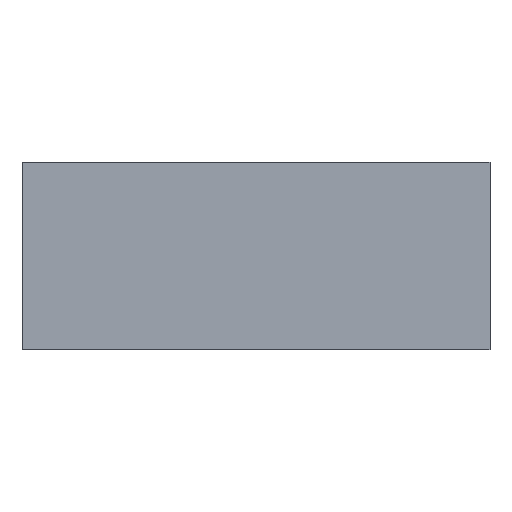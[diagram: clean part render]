
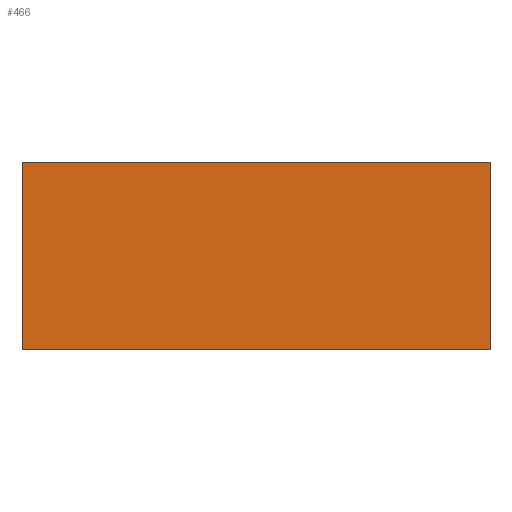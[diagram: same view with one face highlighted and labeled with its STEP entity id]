
A CAD part, left-side view. The second image highlights one B-rep face of the part: STEP entity #466.
In plain terms, the highlighted planar face has unit normal (-1, 0, 0).
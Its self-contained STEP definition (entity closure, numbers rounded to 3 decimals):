
#1 = EDGE_LOOP ( 'NONE', ( #212, #404, #587, #573 ) ) ;
#3 = VECTOR ( 'NONE', #91, 1000. ) ;
#19 = CARTESIAN_POINT ( 'NONE',  ( -90., 25., 20. ) ) ;
#26 = FACE_OUTER_BOUND ( 'NONE', #1, .T. ) ;
#33 = VECTOR ( 'NONE', #97, 1000. ) ;
#91 = DIRECTION ( 'NONE',  ( 0., -1., 0. ) ) ;
#97 = DIRECTION ( 'NONE',  ( 0., -1., 0. ) ) ;
#98 = PLANE ( 'NONE',  #535 ) ;
#134 = VERTEX_POINT ( 'NONE', #604 ) ;
#193 = EDGE_CURVE ( 'NONE', #489, #134, #260, .T. ) ;
#210 = CARTESIAN_POINT ( 'NONE',  ( -90., 25., 20. ) ) ;
#212 = ORIENTED_EDGE ( 'NONE', *, *, #398, .T. ) ;
#260 = LINE ( 'NONE', #210, #3 ) ;
#294 = CARTESIAN_POINT ( 'NONE',  ( -90., 25., 0. ) ) ;
#309 = VECTOR ( 'NONE', #506, 1000. ) ;
#311 = CARTESIAN_POINT ( 'NONE',  ( -90., 25., 20. ) ) ;
#312 = VECTOR ( 'NONE', #568, 1000. ) ;
#325 = EDGE_CURVE ( 'NONE', #489, #386, #472, .T. ) ;
#344 = CARTESIAN_POINT ( 'NONE',  ( -90., -25., 0. ) ) ;
#386 = VERTEX_POINT ( 'NONE', #294 ) ;
#398 = EDGE_CURVE ( 'NONE', #386, #434, #642, .T. ) ;
#404 = ORIENTED_EDGE ( 'NONE', *, *, #525, .F. ) ;
#418 = CARTESIAN_POINT ( 'NONE',  ( -90., 25., 0. ) ) ;
#423 = LINE ( 'NONE', #504, #309 ) ;
#434 = VERTEX_POINT ( 'NONE', #344 ) ;
#466 = ADVANCED_FACE ( 'NONE', ( #26 ), #98, .F. ) ;
#472 = LINE ( 'NONE', #19, #312 ) ;
#489 = VERTEX_POINT ( 'NONE', #661 ) ;
#504 = CARTESIAN_POINT ( 'NONE',  ( -90., -25., 20. ) ) ;
#506 = DIRECTION ( 'NONE',  ( 0., 0., -1. ) ) ;
#513 = DIRECTION ( 'NONE',  ( 0., 0., -1. ) ) ;
#525 = EDGE_CURVE ( 'NONE', #134, #434, #423, .T. ) ;
#535 = AXIS2_PLACEMENT_3D ( 'NONE', #311, #588, #513 ) ;
#568 = DIRECTION ( 'NONE',  ( 0., 0., -1. ) ) ;
#573 = ORIENTED_EDGE ( 'NONE', *, *, #325, .T. ) ;
#587 = ORIENTED_EDGE ( 'NONE', *, *, #193, .F. ) ;
#588 = DIRECTION ( 'NONE',  ( 1., 0., 0. ) ) ;
#604 = CARTESIAN_POINT ( 'NONE',  ( -90., -25., 20. ) ) ;
#642 = LINE ( 'NONE', #418, #33 ) ;
#661 = CARTESIAN_POINT ( 'NONE',  ( -90., 25., 20. ) ) ;
